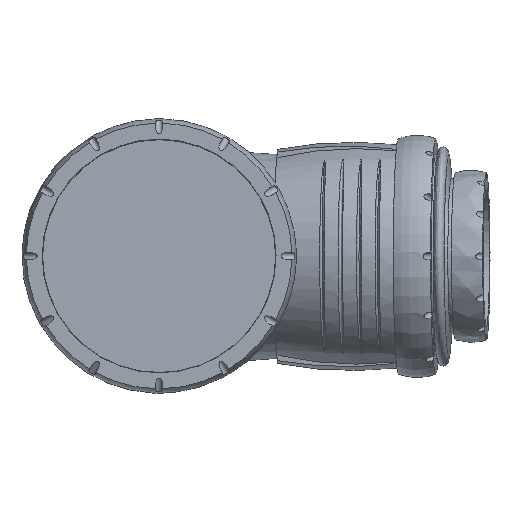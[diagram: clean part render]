
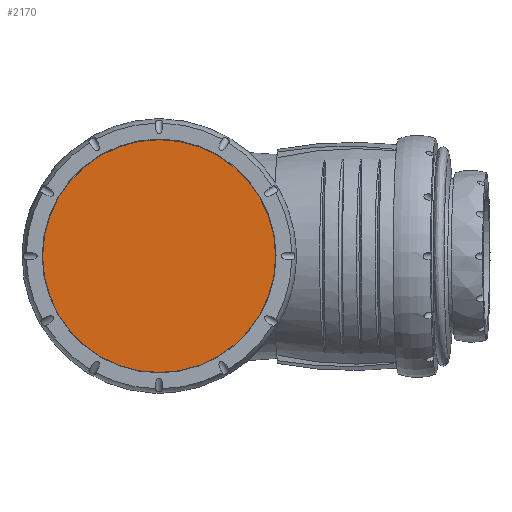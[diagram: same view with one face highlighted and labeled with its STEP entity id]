
A CAD part, top view. The second image highlights one B-rep face of the part: STEP entity #2170.
In plain terms, the highlighted planar face has unit normal (0, 0, 1).
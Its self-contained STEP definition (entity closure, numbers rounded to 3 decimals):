
#283=PLANE('',#2335);
#385=FACE_OUTER_BOUND('',#526,.T.);
#526=EDGE_LOOP('',(#1382));
#711=CIRCLE('',#2336,63.);
#825=VERTEX_POINT('',#3362);
#1055=EDGE_CURVE('',#825,#825,#711,.T.);
#1382=ORIENTED_EDGE('',*,*,#1055,.T.);
#2170=ADVANCED_FACE('',(#385),#283,.T.);
#2335=AXIS2_PLACEMENT_3D('',#3361,#2609,#2610);
#2336=AXIS2_PLACEMENT_3D('',#3363,#2611,#2612);
#2609=DIRECTION('center_axis',(0.,0.,
1.));
#2610=DIRECTION('ref_axis',(0.,1.,0.));
#2611=DIRECTION('center_axis',(0.,0.,
1.));
#2612=DIRECTION('ref_axis',(0.,1.,0.));
#3361=CARTESIAN_POINT('Origin',(0.,0.,
233.));
#3362=CARTESIAN_POINT('',(-63.,0.,233.));
#3363=CARTESIAN_POINT('Origin',(0.,0.,
233.));
